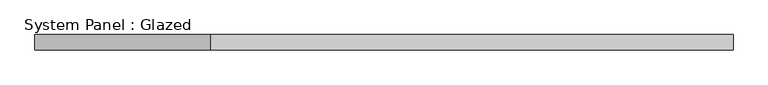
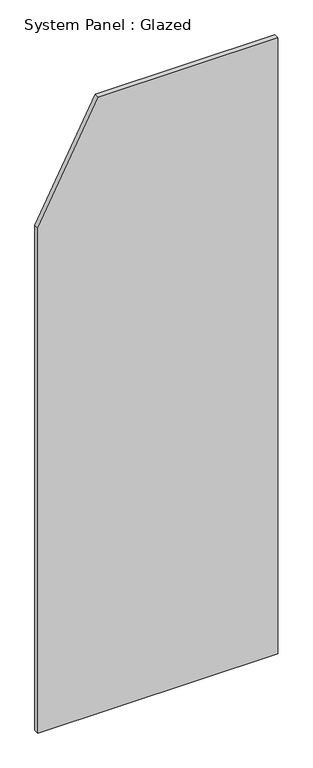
"""IFC4 building model written with IfcOpenShell, lengths in millimetres: plate geometry, System Panel : Glazed."""

from ifc_helpers import new_model, si_unit, frame, origin, place, context, project, spatial, polyline, outline, extrude, source, transform, mapped, element, save


def system_panel_glazed_a2f8f6d2(model_context):
    return source(origin(), model_context, "Body", "SweptSolid", [
        extrude(outline(polyline([(0.0, -571.5147841), (0.0, 571.5147841), (3100.0, 571.5147841), (3100.0, -283.7213656), (2541.0796046, -571.5147841), (0.0, -571.5147841)])), frame((0.0, -12.5, 0.0), z_axis=(0.0, 1.0, 0.0), x_axis=(0.0, 0.0, 1.0)), (0.0, 0.0, 1.0), 25.0),
    ])


if __name__ == "__main__":
    model = new_model("IFC4")
    model_context = context("Model", 3, world=origin())
    ifc_project = project(units=[si_unit("LENGTHUNIT", "METRE", prefix="MILLI")], contexts=[model_context])
    site = spatial("IfcSite", under=ifc_project)
    building = spatial("IfcBuilding", under=site)
    placement = place(None, origin())
    system_panel_glazed_shape = system_panel_glazed_a2f8f6d2(model_context)
    element("IfcPlate", 1, ObjectType="System Panel : Glazed", at=placement, inside=building, context=model_context, shape_type="MappedRepresentation", body=[
        mapped(system_panel_glazed_shape, transform((0.0, 0.0, 0.0), x_axis=(1.0, 0.0, 0.0), y_axis=(0.0, 1.0, 0.0), z_axis=(0.0, 0.0, 1.0))),
    ])
    save(model, "model.ifc")
